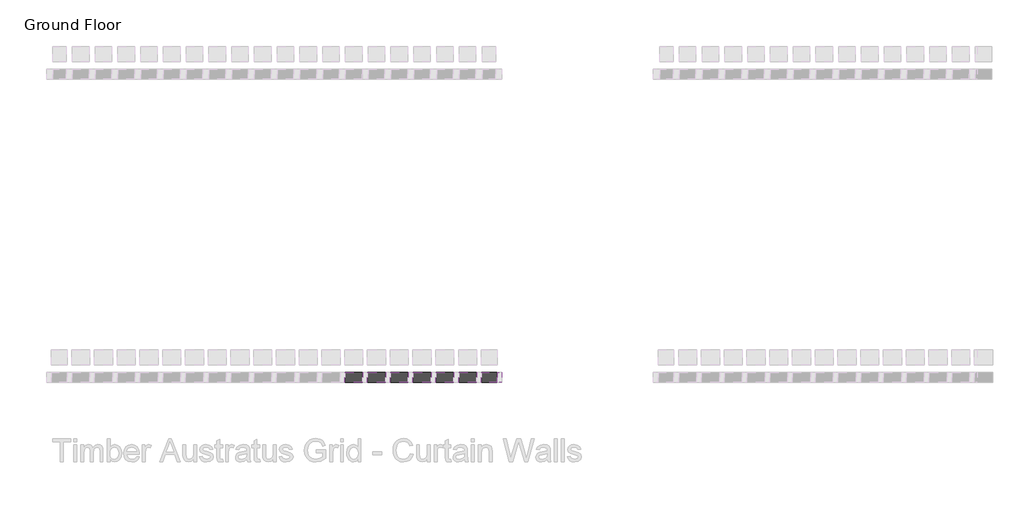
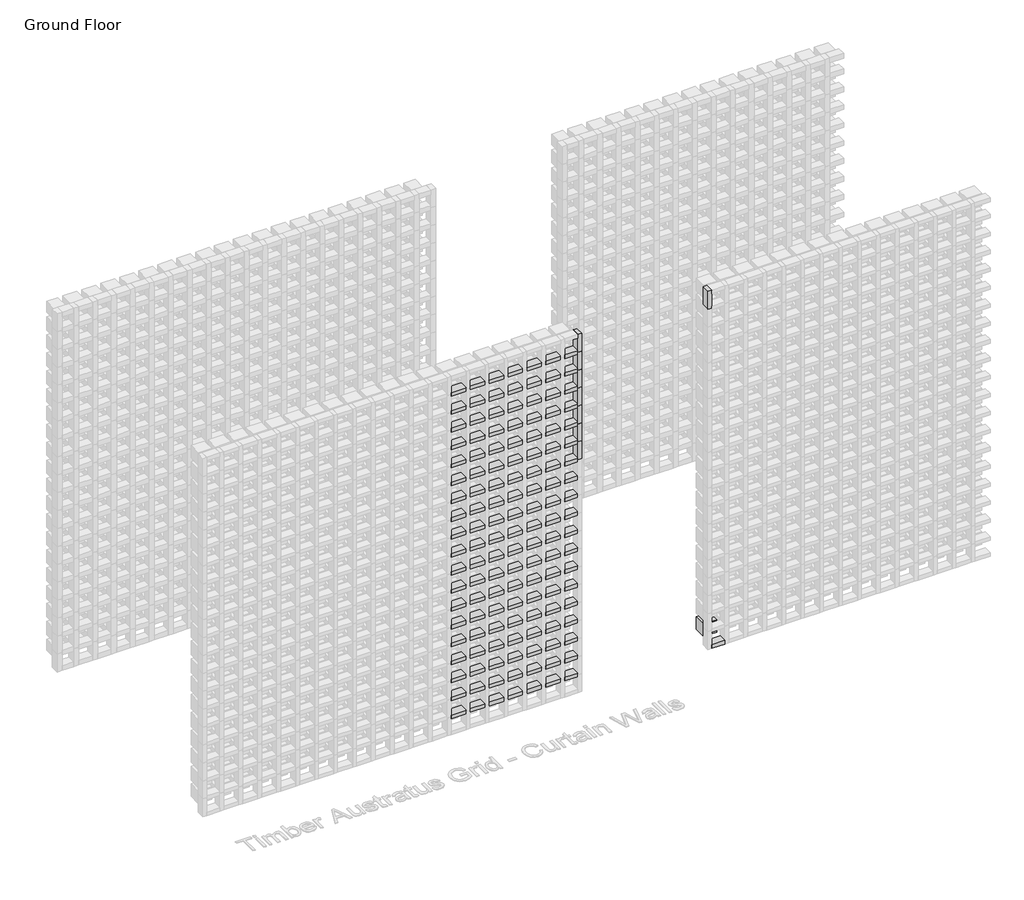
# One storey, part 54 of 350: 142 members, 1 plate.
"""IFC4 building model written with IfcOpenShell, lengths in millimetres."""

from ifc_helpers import new_model, si_unit, origin, place, context, project, spatial, transform, mapped, element, save
from components import rectangular_mullion_1c916715, rectangular_mullion_a9727e9f, rectangular_mullion_e9e2e2fa, rectangular_mullion_27b03f3e, rectangular_mullion_ed01f2b6, empty_system_panel_empty_2f71b3a5

model = new_model("IFC4")

# Units and contexts
model_context = context("Model", 3, world=origin())
ifc_project = project(units=[si_unit("LENGTHUNIT", "METRE", prefix="MILLI")], contexts=[model_context])

# Site, building, storey
site = spatial("IfcSite", under=ifc_project)
building = spatial("IfcBuilding", under=site)
storey = spatial("IfcBuildingStorey", under=building, Name="Ground Floor", Elevation=0.0)

# Members
placement = place(None, origin())
rectangular_mullion_shape = rectangular_mullion_1c916715(model_context)
element("IfcMember", 1, ObjectType="Rectangular Mullion : Batten_Timber_Modinex_Austratus_Grid_Fascia_30x65_AlaskanYellowCedar", at=placement, inside=storey, context=model_context, shape_type="MappedRepresentation", body=[
    mapped(rectangular_mullion_shape, transform((4001.4361642, 38968.2978302, 150.0), x_axis=(0.0, 0.0, 1.0), y_axis=(0.0, -1.0, 0.0), z_axis=(1.0, 0.0, 0.0))),
])
element("IfcMember", 2, ObjectType="Rectangular Mullion : Batten_Timber_Modinex_Austratus_Grid_Fascia_30x65_AlaskanYellowCedar", at=placement, inside=storey, context=model_context, shape_type="MappedRepresentation", body=[
    mapped(rectangular_mullion_shape, transform((4151.4361642, 38968.2978302, 150.0), x_axis=(0.0, 0.0, 1.0), y_axis=(0.0, -1.0, 0.0), z_axis=(1.0, 0.0, 0.0))),
])
element("IfcMember", 3, ObjectType="Rectangular Mullion : Batten_Timber_Modinex_Austratus_Grid_Fascia_30x65_AlaskanYellowCedar", at=placement, inside=storey, context=model_context, shape_type="MappedRepresentation", body=[
    mapped(rectangular_mullion_shape, transform((4301.4361642, 38968.2978302, 150.0), x_axis=(0.0, 0.0, 1.0), y_axis=(0.0, -1.0, 0.0), z_axis=(1.0, 0.0, 0.0))),
])
element("IfcMember", 4, ObjectType="Rectangular Mullion : Batten_Timber_Modinex_Austratus_Grid_Fascia_30x65_AlaskanYellowCedar", at=placement, inside=storey, context=model_context, shape_type="MappedRepresentation", body=[
    mapped(rectangular_mullion_shape, transform((4451.4361642, 38968.2978302, 150.0), x_axis=(0.0, 0.0, 1.0), y_axis=(0.0, -1.0, 0.0), z_axis=(1.0, 0.0, 0.0))),
])
element("IfcMember", 5, ObjectType="Rectangular Mullion : Batten_Timber_Modinex_Austratus_Grid_Fascia_30x65_AlaskanYellowCedar", at=placement, inside=storey, context=model_context, shape_type="MappedRepresentation", body=[
    mapped(rectangular_mullion_shape, transform((4601.4361642, 38968.2978302, 150.0), x_axis=(0.0, 0.0, 1.0), y_axis=(0.0, -1.0, 0.0), z_axis=(1.0, 0.0, 0.0))),
])
element("IfcMember", 6, ObjectType="Rectangular Mullion : Batten_Timber_Modinex_Austratus_Grid_Fascia_30x65_AlaskanYellowCedar", at=placement, inside=storey, context=model_context, shape_type="MappedRepresentation", body=[
    mapped(rectangular_mullion_shape, transform((4751.4361642, 38968.2978302, 150.0), x_axis=(0.0, 0.0, 1.0), y_axis=(0.0, -1.0, 0.0), z_axis=(1.0, 0.0, 0.0))),
])
element("IfcMember", 7, ObjectType="Rectangular Mullion : Batten_Timber_Modinex_Austratus_Grid_Fascia_30x65_AlaskanYellowCedar", at=placement, inside=storey, context=model_context, shape_type="MappedRepresentation", body=[
    mapped(rectangular_mullion_shape, transform((4001.4361642, 38968.2978302, 300.0), x_axis=(0.0, 0.0, 1.0), y_axis=(0.0, -1.0, 0.0), z_axis=(1.0, 0.0, 0.0))),
])
element("IfcMember", 8, ObjectType="Rectangular Mullion : Batten_Timber_Modinex_Austratus_Grid_Fascia_30x65_AlaskanYellowCedar", at=placement, inside=storey, context=model_context, shape_type="MappedRepresentation", body=[
    mapped(rectangular_mullion_shape, transform((4151.4361642, 38968.2978302, 300.0), x_axis=(0.0, 0.0, 1.0), y_axis=(0.0, -1.0, 0.0), z_axis=(1.0, 0.0, 0.0))),
])
element("IfcMember", 9, ObjectType="Rectangular Mullion : Batten_Timber_Modinex_Austratus_Grid_Fascia_30x65_AlaskanYellowCedar", at=placement, inside=storey, context=model_context, shape_type="MappedRepresentation", body=[
    mapped(rectangular_mullion_shape, transform((4301.4361642, 38968.2978302, 300.0), x_axis=(0.0, 0.0, 1.0), y_axis=(0.0, -1.0, 0.0), z_axis=(1.0, 0.0, 0.0))),
])
element("IfcMember", 10, ObjectType="Rectangular Mullion : Batten_Timber_Modinex_Austratus_Grid_Fascia_30x65_AlaskanYellowCedar", at=placement, inside=storey, context=model_context, shape_type="MappedRepresentation", body=[
    mapped(rectangular_mullion_shape, transform((4451.4361642, 38968.2978302, 300.0), x_axis=(0.0, 0.0, 1.0), y_axis=(0.0, -1.0, 0.0), z_axis=(1.0, 0.0, 0.0))),
])
element("IfcMember", 11, ObjectType="Rectangular Mullion : Batten_Timber_Modinex_Austratus_Grid_Fascia_30x65_AlaskanYellowCedar", at=placement, inside=storey, context=model_context, shape_type="MappedRepresentation", body=[
    mapped(rectangular_mullion_shape, transform((4601.4361642, 38968.2978302, 300.0), x_axis=(0.0, 0.0, 1.0), y_axis=(0.0, -1.0, 0.0), z_axis=(1.0, 0.0, 0.0))),
])
element("IfcMember", 12, ObjectType="Rectangular Mullion : Batten_Timber_Modinex_Austratus_Grid_Fascia_30x65_AlaskanYellowCedar", at=placement, inside=storey, context=model_context, shape_type="MappedRepresentation", body=[
    mapped(rectangular_mullion_shape, transform((4751.4361642, 38968.2978302, 300.0), x_axis=(0.0, 0.0, 1.0), y_axis=(0.0, -1.0, 0.0), z_axis=(1.0, 0.0, 0.0))),
])
element("IfcMember", 13, ObjectType="Rectangular Mullion : Batten_Timber_Modinex_Austratus_Grid_Fascia_30x65_AlaskanYellowCedar", at=placement, inside=storey, context=model_context, shape_type="MappedRepresentation", body=[
    mapped(rectangular_mullion_shape, transform((4001.4361642, 38968.2978302, 450.0), x_axis=(0.0, 0.0, 1.0), y_axis=(0.0, -1.0, 0.0), z_axis=(1.0, 0.0, 0.0))),
])
element("IfcMember", 14, ObjectType="Rectangular Mullion : Batten_Timber_Modinex_Austratus_Grid_Fascia_30x65_AlaskanYellowCedar", at=placement, inside=storey, context=model_context, shape_type="MappedRepresentation", body=[
    mapped(rectangular_mullion_shape, transform((4151.4361642, 38968.2978302, 450.0), x_axis=(0.0, 0.0, 1.0), y_axis=(0.0, -1.0, 0.0), z_axis=(1.0, 0.0, 0.0))),
])
element("IfcMember", 15, ObjectType="Rectangular Mullion : Batten_Timber_Modinex_Austratus_Grid_Fascia_30x65_AlaskanYellowCedar", at=placement, inside=storey, context=model_context, shape_type="MappedRepresentation", body=[
    mapped(rectangular_mullion_shape, transform((4301.4361642, 38968.2978302, 450.0), x_axis=(0.0, 0.0, 1.0), y_axis=(0.0, -1.0, 0.0), z_axis=(1.0, 0.0, 0.0))),
])
element("IfcMember", 16, ObjectType="Rectangular Mullion : Batten_Timber_Modinex_Austratus_Grid_Fascia_30x65_AlaskanYellowCedar", at=placement, inside=storey, context=model_context, shape_type="MappedRepresentation", body=[
    mapped(rectangular_mullion_shape, transform((4451.4361642, 38968.2978302, 450.0), x_axis=(0.0, 0.0, 1.0), y_axis=(0.0, -1.0, 0.0), z_axis=(1.0, 0.0, 0.0))),
])
element("IfcMember", 17, ObjectType="Rectangular Mullion : Batten_Timber_Modinex_Austratus_Grid_Fascia_30x65_AlaskanYellowCedar", at=placement, inside=storey, context=model_context, shape_type="MappedRepresentation", body=[
    mapped(rectangular_mullion_shape, transform((4601.4361642, 38968.2978302, 450.0), x_axis=(0.0, 0.0, 1.0), y_axis=(0.0, -1.0, 0.0), z_axis=(1.0, 0.0, 0.0))),
])
element("IfcMember", 18, ObjectType="Rectangular Mullion : Batten_Timber_Modinex_Austratus_Grid_Fascia_30x65_AlaskanYellowCedar", at=placement, inside=storey, context=model_context, shape_type="MappedRepresentation", body=[
    mapped(rectangular_mullion_shape, transform((4751.4361642, 38968.2978302, 450.0), x_axis=(0.0, 0.0, 1.0), y_axis=(0.0, -1.0, 0.0), z_axis=(1.0, 0.0, 0.0))),
])
element("IfcMember", 19, ObjectType="Rectangular Mullion : Batten_Timber_Modinex_Austratus_Grid_Fascia_30x65_AlaskanYellowCedar", at=placement, inside=storey, context=model_context, shape_type="MappedRepresentation", body=[
    mapped(rectangular_mullion_shape, transform((4001.4361642, 38968.2978302, 600.0), x_axis=(0.0, 0.0, 1.0), y_axis=(0.0, -1.0, 0.0), z_axis=(1.0, 0.0, 0.0))),
])
element("IfcMember", 20, ObjectType="Rectangular Mullion : Batten_Timber_Modinex_Austratus_Grid_Fascia_30x65_AlaskanYellowCedar", at=placement, inside=storey, context=model_context, shape_type="MappedRepresentation", body=[
    mapped(rectangular_mullion_shape, transform((4151.4361642, 38968.2978302, 600.0), x_axis=(0.0, 0.0, 1.0), y_axis=(0.0, -1.0, 0.0), z_axis=(1.0, 0.0, 0.0))),
])
element("IfcMember", 21, ObjectType="Rectangular Mullion : Batten_Timber_Modinex_Austratus_Grid_Fascia_30x65_AlaskanYellowCedar", at=placement, inside=storey, context=model_context, shape_type="MappedRepresentation", body=[
    mapped(rectangular_mullion_shape, transform((4301.4361642, 38968.2978302, 600.0), x_axis=(0.0, 0.0, 1.0), y_axis=(0.0, -1.0, 0.0), z_axis=(1.0, 0.0, 0.0))),
])
element("IfcMember", 22, ObjectType="Rectangular Mullion : Batten_Timber_Modinex_Austratus_Grid_Fascia_30x65_AlaskanYellowCedar", at=placement, inside=storey, context=model_context, shape_type="MappedRepresentation", body=[
    mapped(rectangular_mullion_shape, transform((4451.4361642, 38968.2978302, 600.0), x_axis=(0.0, 0.0, 1.0), y_axis=(0.0, -1.0, 0.0), z_axis=(1.0, 0.0, 0.0))),
])
element("IfcMember", 23, ObjectType="Rectangular Mullion : Batten_Timber_Modinex_Austratus_Grid_Fascia_30x65_AlaskanYellowCedar", at=placement, inside=storey, context=model_context, shape_type="MappedRepresentation", body=[
    mapped(rectangular_mullion_shape, transform((4601.4361642, 38968.2978302, 600.0), x_axis=(0.0, 0.0, 1.0), y_axis=(0.0, -1.0, 0.0), z_axis=(1.0, 0.0, 0.0))),
])
element("IfcMember", 24, ObjectType="Rectangular Mullion : Batten_Timber_Modinex_Austratus_Grid_Fascia_30x65_AlaskanYellowCedar", at=placement, inside=storey, context=model_context, shape_type="MappedRepresentation", body=[
    mapped(rectangular_mullion_shape, transform((4751.4361642, 38968.2978302, 600.0), x_axis=(0.0, 0.0, 1.0), y_axis=(0.0, -1.0, 0.0), z_axis=(1.0, 0.0, 0.0))),
])
element("IfcMember", 25, ObjectType="Rectangular Mullion : Batten_Timber_Modinex_Austratus_Grid_Fascia_30x65_AlaskanYellowCedar", at=placement, inside=storey, context=model_context, shape_type="MappedRepresentation", body=[
    mapped(rectangular_mullion_shape, transform((4001.4361642, 38968.2978302, 750.0), x_axis=(0.0, 0.0, 1.0), y_axis=(0.0, -1.0, 0.0), z_axis=(1.0, 0.0, 0.0))),
])
element("IfcMember", 26, ObjectType="Rectangular Mullion : Batten_Timber_Modinex_Austratus_Grid_Fascia_30x65_AlaskanYellowCedar", at=placement, inside=storey, context=model_context, shape_type="MappedRepresentation", body=[
    mapped(rectangular_mullion_shape, transform((4151.4361642, 38968.2978302, 750.0), x_axis=(0.0, 0.0, 1.0), y_axis=(0.0, -1.0, 0.0), z_axis=(1.0, 0.0, 0.0))),
])
element("IfcMember", 27, ObjectType="Rectangular Mullion : Batten_Timber_Modinex_Austratus_Grid_Fascia_30x65_AlaskanYellowCedar", at=placement, inside=storey, context=model_context, shape_type="MappedRepresentation", body=[
    mapped(rectangular_mullion_shape, transform((4301.4361642, 38968.2978302, 750.0), x_axis=(0.0, 0.0, 1.0), y_axis=(0.0, -1.0, 0.0), z_axis=(1.0, 0.0, 0.0))),
])
element("IfcMember", 28, ObjectType="Rectangular Mullion : Batten_Timber_Modinex_Austratus_Grid_Fascia_30x65_AlaskanYellowCedar", at=placement, inside=storey, context=model_context, shape_type="MappedRepresentation", body=[
    mapped(rectangular_mullion_shape, transform((4451.4361642, 38968.2978302, 750.0), x_axis=(0.0, 0.0, 1.0), y_axis=(0.0, -1.0, 0.0), z_axis=(1.0, 0.0, 0.0))),
])
element("IfcMember", 29, ObjectType="Rectangular Mullion : Batten_Timber_Modinex_Austratus_Grid_Fascia_30x65_AlaskanYellowCedar", at=placement, inside=storey, context=model_context, shape_type="MappedRepresentation", body=[
    mapped(rectangular_mullion_shape, transform((4601.4361642, 38968.2978302, 750.0), x_axis=(0.0, 0.0, 1.0), y_axis=(0.0, -1.0, 0.0), z_axis=(1.0, 0.0, 0.0))),
])
element("IfcMember", 30, ObjectType="Rectangular Mullion : Batten_Timber_Modinex_Austratus_Grid_Fascia_30x65_AlaskanYellowCedar", at=placement, inside=storey, context=model_context, shape_type="MappedRepresentation", body=[
    mapped(rectangular_mullion_shape, transform((4751.4361642, 38968.2978302, 750.0), x_axis=(0.0, 0.0, 1.0), y_axis=(0.0, -1.0, 0.0), z_axis=(1.0, 0.0, 0.0))),
])
element("IfcMember", 31, ObjectType="Rectangular Mullion : Batten_Timber_Modinex_Austratus_Grid_Fascia_30x65_AlaskanYellowCedar", at=placement, inside=storey, context=model_context, shape_type="MappedRepresentation", body=[
    mapped(rectangular_mullion_shape, transform((4001.4361642, 38968.2978302, 900.0), x_axis=(0.0, 0.0, 1.0), y_axis=(0.0, -1.0, 0.0), z_axis=(1.0, 0.0, 0.0))),
])
element("IfcMember", 32, ObjectType="Rectangular Mullion : Batten_Timber_Modinex_Austratus_Grid_Fascia_30x65_AlaskanYellowCedar", at=placement, inside=storey, context=model_context, shape_type="MappedRepresentation", body=[
    mapped(rectangular_mullion_shape, transform((4151.4361642, 38968.2978302, 900.0), x_axis=(0.0, 0.0, 1.0), y_axis=(0.0, -1.0, 0.0), z_axis=(1.0, 0.0, 0.0))),
])
element("IfcMember", 33, ObjectType="Rectangular Mullion : Batten_Timber_Modinex_Austratus_Grid_Fascia_30x65_AlaskanYellowCedar", at=placement, inside=storey, context=model_context, shape_type="MappedRepresentation", body=[
    mapped(rectangular_mullion_shape, transform((4301.4361642, 38968.2978302, 900.0), x_axis=(0.0, 0.0, 1.0), y_axis=(0.0, -1.0, 0.0), z_axis=(1.0, 0.0, 0.0))),
])
element("IfcMember", 34, ObjectType="Rectangular Mullion : Batten_Timber_Modinex_Austratus_Grid_Fascia_30x65_AlaskanYellowCedar", at=placement, inside=storey, context=model_context, shape_type="MappedRepresentation", body=[
    mapped(rectangular_mullion_shape, transform((4451.4361642, 38968.2978302, 900.0), x_axis=(0.0, 0.0, 1.0), y_axis=(0.0, -1.0, 0.0), z_axis=(1.0, 0.0, 0.0))),
])
element("IfcMember", 35, ObjectType="Rectangular Mullion : Batten_Timber_Modinex_Austratus_Grid_Fascia_30x65_AlaskanYellowCedar", at=placement, inside=storey, context=model_context, shape_type="MappedRepresentation", body=[
    mapped(rectangular_mullion_shape, transform((4601.4361642, 38968.2978302, 900.0), x_axis=(0.0, 0.0, 1.0), y_axis=(0.0, -1.0, 0.0), z_axis=(1.0, 0.0, 0.0))),
])
element("IfcMember", 36, ObjectType="Rectangular Mullion : Batten_Timber_Modinex_Austratus_Grid_Fascia_30x65_AlaskanYellowCedar", at=placement, inside=storey, context=model_context, shape_type="MappedRepresentation", body=[
    mapped(rectangular_mullion_shape, transform((4751.4361642, 38968.2978302, 900.0), x_axis=(0.0, 0.0, 1.0), y_axis=(0.0, -1.0, 0.0), z_axis=(1.0, 0.0, 0.0))),
])
element("IfcMember", 37, ObjectType="Rectangular Mullion : Batten_Timber_Modinex_Austratus_Grid_Fascia_30x65_AlaskanYellowCedar", at=placement, inside=storey, context=model_context, shape_type="MappedRepresentation", body=[
    mapped(rectangular_mullion_shape, transform((4001.4361642, 38968.2978302, 1050.0), x_axis=(0.0, 0.0, 1.0), y_axis=(0.0, -1.0, 0.0), z_axis=(1.0, 0.0, 0.0))),
])
element("IfcMember", 38, ObjectType="Rectangular Mullion : Batten_Timber_Modinex_Austratus_Grid_Fascia_30x65_AlaskanYellowCedar", at=placement, inside=storey, context=model_context, shape_type="MappedRepresentation", body=[
    mapped(rectangular_mullion_shape, transform((4151.4361642, 38968.2978302, 1050.0), x_axis=(0.0, 0.0, 1.0), y_axis=(0.0, -1.0, 0.0), z_axis=(1.0, 0.0, 0.0))),
])
element("IfcMember", 39, ObjectType="Rectangular Mullion : Batten_Timber_Modinex_Austratus_Grid_Fascia_30x65_AlaskanYellowCedar", at=placement, inside=storey, context=model_context, shape_type="MappedRepresentation", body=[
    mapped(rectangular_mullion_shape, transform((4301.4361642, 38968.2978302, 1050.0), x_axis=(0.0, 0.0, 1.0), y_axis=(0.0, -1.0, 0.0), z_axis=(1.0, 0.0, 0.0))),
])
element("IfcMember", 40, ObjectType="Rectangular Mullion : Batten_Timber_Modinex_Austratus_Grid_Fascia_30x65_AlaskanYellowCedar", at=placement, inside=storey, context=model_context, shape_type="MappedRepresentation", body=[
    mapped(rectangular_mullion_shape, transform((4451.4361642, 38968.2978302, 1050.0), x_axis=(0.0, 0.0, 1.0), y_axis=(0.0, -1.0, 0.0), z_axis=(1.0, 0.0, 0.0))),
])
element("IfcMember", 41, ObjectType="Rectangular Mullion : Batten_Timber_Modinex_Austratus_Grid_Fascia_30x65_AlaskanYellowCedar", at=placement, inside=storey, context=model_context, shape_type="MappedRepresentation", body=[
    mapped(rectangular_mullion_shape, transform((4601.4361642, 38968.2978302, 1050.0), x_axis=(0.0, 0.0, 1.0), y_axis=(0.0, -1.0, 0.0), z_axis=(1.0, 0.0, 0.0))),
])
element("IfcMember", 42, ObjectType="Rectangular Mullion : Batten_Timber_Modinex_Austratus_Grid_Fascia_30x65_AlaskanYellowCedar", at=placement, inside=storey, context=model_context, shape_type="MappedRepresentation", body=[
    mapped(rectangular_mullion_shape, transform((4751.4361642, 38968.2978302, 1050.0), x_axis=(0.0, 0.0, 1.0), y_axis=(0.0, -1.0, 0.0), z_axis=(1.0, 0.0, 0.0))),
])
element("IfcMember", 43, ObjectType="Rectangular Mullion : Batten_Timber_Modinex_Austratus_Grid_Fascia_30x65_AlaskanYellowCedar", at=placement, inside=storey, context=model_context, shape_type="MappedRepresentation", body=[
    mapped(rectangular_mullion_shape, transform((4001.4361642, 38968.2978302, 1200.0), x_axis=(0.0, 0.0, 1.0), y_axis=(0.0, -1.0, 0.0), z_axis=(1.0, 0.0, 0.0))),
])
element("IfcMember", 44, ObjectType="Rectangular Mullion : Batten_Timber_Modinex_Austratus_Grid_Fascia_30x65_AlaskanYellowCedar", at=placement, inside=storey, context=model_context, shape_type="MappedRepresentation", body=[
    mapped(rectangular_mullion_shape, transform((4151.4361642, 38968.2978302, 1200.0), x_axis=(0.0, 0.0, 1.0), y_axis=(0.0, -1.0, 0.0), z_axis=(1.0, 0.0, 0.0))),
])
element("IfcMember", 45, ObjectType="Rectangular Mullion : Batten_Timber_Modinex_Austratus_Grid_Fascia_30x65_AlaskanYellowCedar", at=placement, inside=storey, context=model_context, shape_type="MappedRepresentation", body=[
    mapped(rectangular_mullion_shape, transform((4301.4361642, 38968.2978302, 1200.0), x_axis=(0.0, 0.0, 1.0), y_axis=(0.0, -1.0, 0.0), z_axis=(1.0, 0.0, 0.0))),
])
element("IfcMember", 46, ObjectType="Rectangular Mullion : Batten_Timber_Modinex_Austratus_Grid_Fascia_30x65_AlaskanYellowCedar", at=placement, inside=storey, context=model_context, shape_type="MappedRepresentation", body=[
    mapped(rectangular_mullion_shape, transform((4451.4361642, 38968.2978302, 1200.0), x_axis=(0.0, 0.0, 1.0), y_axis=(0.0, -1.0, 0.0), z_axis=(1.0, 0.0, 0.0))),
])
element("IfcMember", 47, ObjectType="Rectangular Mullion : Batten_Timber_Modinex_Austratus_Grid_Fascia_30x65_AlaskanYellowCedar", at=placement, inside=storey, context=model_context, shape_type="MappedRepresentation", body=[
    mapped(rectangular_mullion_shape, transform((4601.4361642, 38968.2978302, 1200.0), x_axis=(0.0, 0.0, 1.0), y_axis=(0.0, -1.0, 0.0), z_axis=(1.0, 0.0, 0.0))),
])
element("IfcMember", 48, ObjectType="Rectangular Mullion : Batten_Timber_Modinex_Austratus_Grid_Fascia_30x65_AlaskanYellowCedar", at=placement, inside=storey, context=model_context, shape_type="MappedRepresentation", body=[
    mapped(rectangular_mullion_shape, transform((4751.4361642, 38968.2978302, 1200.0), x_axis=(0.0, 0.0, 1.0), y_axis=(0.0, -1.0, 0.0), z_axis=(1.0, 0.0, 0.0))),
])
element("IfcMember", 49, ObjectType="Rectangular Mullion : Batten_Timber_Modinex_Austratus_Grid_Fascia_30x65_AlaskanYellowCedar", at=placement, inside=storey, context=model_context, shape_type="MappedRepresentation", body=[
    mapped(rectangular_mullion_shape, transform((4001.4361642, 38968.2978302, 1350.0), x_axis=(0.0, 0.0, 1.0), y_axis=(0.0, -1.0, 0.0), z_axis=(1.0, 0.0, 0.0))),
])
element("IfcMember", 50, ObjectType="Rectangular Mullion : Batten_Timber_Modinex_Austratus_Grid_Fascia_30x65_AlaskanYellowCedar", at=placement, inside=storey, context=model_context, shape_type="MappedRepresentation", body=[
    mapped(rectangular_mullion_shape, transform((4151.4361642, 38968.2978302, 1350.0), x_axis=(0.0, 0.0, 1.0), y_axis=(0.0, -1.0, 0.0), z_axis=(1.0, 0.0, 0.0))),
])
element("IfcMember", 51, ObjectType="Rectangular Mullion : Batten_Timber_Modinex_Austratus_Grid_Fascia_30x65_AlaskanYellowCedar", at=placement, inside=storey, context=model_context, shape_type="MappedRepresentation", body=[
    mapped(rectangular_mullion_shape, transform((4301.4361642, 38968.2978302, 1350.0), x_axis=(0.0, 0.0, 1.0), y_axis=(0.0, -1.0, 0.0), z_axis=(1.0, 0.0, 0.0))),
])
element("IfcMember", 52, ObjectType="Rectangular Mullion : Batten_Timber_Modinex_Austratus_Grid_Fascia_30x65_AlaskanYellowCedar", at=placement, inside=storey, context=model_context, shape_type="MappedRepresentation", body=[
    mapped(rectangular_mullion_shape, transform((4451.4361642, 38968.2978302, 1350.0), x_axis=(0.0, 0.0, 1.0), y_axis=(0.0, -1.0, 0.0), z_axis=(1.0, 0.0, 0.0))),
])
element("IfcMember", 53, ObjectType="Rectangular Mullion : Batten_Timber_Modinex_Austratus_Grid_Fascia_30x65_AlaskanYellowCedar", at=placement, inside=storey, context=model_context, shape_type="MappedRepresentation", body=[
    mapped(rectangular_mullion_shape, transform((4601.4361642, 38968.2978302, 1350.0), x_axis=(0.0, 0.0, 1.0), y_axis=(0.0, -1.0, 0.0), z_axis=(1.0, 0.0, 0.0))),
])
element("IfcMember", 54, ObjectType="Rectangular Mullion : Batten_Timber_Modinex_Austratus_Grid_Fascia_30x65_AlaskanYellowCedar", at=placement, inside=storey, context=model_context, shape_type="MappedRepresentation", body=[
    mapped(rectangular_mullion_shape, transform((4751.4361642, 38968.2978302, 1350.0), x_axis=(0.0, 0.0, 1.0), y_axis=(0.0, -1.0, 0.0), z_axis=(1.0, 0.0, 0.0))),
])
element("IfcMember", 55, ObjectType="Rectangular Mullion : Batten_Timber_Modinex_Austratus_Grid_Fascia_30x65_AlaskanYellowCedar", at=placement, inside=storey, context=model_context, shape_type="MappedRepresentation", body=[
    mapped(rectangular_mullion_shape, transform((4001.4361642, 38968.2978302, 1500.0), x_axis=(0.0, 0.0, 1.0), y_axis=(0.0, -1.0, 0.0), z_axis=(1.0, 0.0, 0.0))),
])
element("IfcMember", 56, ObjectType="Rectangular Mullion : Batten_Timber_Modinex_Austratus_Grid_Fascia_30x65_AlaskanYellowCedar", at=placement, inside=storey, context=model_context, shape_type="MappedRepresentation", body=[
    mapped(rectangular_mullion_shape, transform((4151.4361642, 38968.2978302, 1500.0), x_axis=(0.0, 0.0, 1.0), y_axis=(0.0, -1.0, 0.0), z_axis=(1.0, 0.0, 0.0))),
])
element("IfcMember", 57, ObjectType="Rectangular Mullion : Batten_Timber_Modinex_Austratus_Grid_Fascia_30x65_AlaskanYellowCedar", at=placement, inside=storey, context=model_context, shape_type="MappedRepresentation", body=[
    mapped(rectangular_mullion_shape, transform((4301.4361642, 38968.2978302, 1500.0), x_axis=(0.0, 0.0, 1.0), y_axis=(0.0, -1.0, 0.0), z_axis=(1.0, 0.0, 0.0))),
])
element("IfcMember", 58, ObjectType="Rectangular Mullion : Batten_Timber_Modinex_Austratus_Grid_Fascia_30x65_AlaskanYellowCedar", at=placement, inside=storey, context=model_context, shape_type="MappedRepresentation", body=[
    mapped(rectangular_mullion_shape, transform((4451.4361642, 38968.2978302, 1500.0), x_axis=(0.0, 0.0, 1.0), y_axis=(0.0, -1.0, 0.0), z_axis=(1.0, 0.0, 0.0))),
])
element("IfcMember", 59, ObjectType="Rectangular Mullion : Batten_Timber_Modinex_Austratus_Grid_Fascia_30x65_AlaskanYellowCedar", at=placement, inside=storey, context=model_context, shape_type="MappedRepresentation", body=[
    mapped(rectangular_mullion_shape, transform((4601.4361642, 38968.2978302, 1500.0), x_axis=(0.0, 0.0, 1.0), y_axis=(0.0, -1.0, 0.0), z_axis=(1.0, 0.0, 0.0))),
])
element("IfcMember", 60, ObjectType="Rectangular Mullion : Batten_Timber_Modinex_Austratus_Grid_Fascia_30x65_AlaskanYellowCedar", at=placement, inside=storey, context=model_context, shape_type="MappedRepresentation", body=[
    mapped(rectangular_mullion_shape, transform((4751.4361642, 38968.2978302, 1500.0), x_axis=(0.0, 0.0, 1.0), y_axis=(0.0, -1.0, 0.0), z_axis=(1.0, 0.0, 0.0))),
])
element("IfcMember", 61, ObjectType="Rectangular Mullion : Batten_Timber_Modinex_Austratus_Grid_Fascia_30x65_AlaskanYellowCedar", at=placement, inside=storey, context=model_context, shape_type="MappedRepresentation", body=[
    mapped(rectangular_mullion_shape, transform((4001.4361642, 38968.2978302, 1650.0), x_axis=(0.0, 0.0, 1.0), y_axis=(0.0, -1.0, 0.0), z_axis=(1.0, 0.0, 0.0))),
])
element("IfcMember", 62, ObjectType="Rectangular Mullion : Batten_Timber_Modinex_Austratus_Grid_Fascia_30x65_AlaskanYellowCedar", at=placement, inside=storey, context=model_context, shape_type="MappedRepresentation", body=[
    mapped(rectangular_mullion_shape, transform((4151.4361642, 38968.2978302, 1650.0), x_axis=(0.0, 0.0, 1.0), y_axis=(0.0, -1.0, 0.0), z_axis=(1.0, 0.0, 0.0))),
])
element("IfcMember", 63, ObjectType="Rectangular Mullion : Batten_Timber_Modinex_Austratus_Grid_Fascia_30x65_AlaskanYellowCedar", at=placement, inside=storey, context=model_context, shape_type="MappedRepresentation", body=[
    mapped(rectangular_mullion_shape, transform((4301.4361642, 38968.2978302, 1650.0), x_axis=(0.0, 0.0, 1.0), y_axis=(0.0, -1.0, 0.0), z_axis=(1.0, 0.0, 0.0))),
])
element("IfcMember", 64, ObjectType="Rectangular Mullion : Batten_Timber_Modinex_Austratus_Grid_Fascia_30x65_AlaskanYellowCedar", at=placement, inside=storey, context=model_context, shape_type="MappedRepresentation", body=[
    mapped(rectangular_mullion_shape, transform((4451.4361642, 38968.2978302, 1650.0), x_axis=(0.0, 0.0, 1.0), y_axis=(0.0, -1.0, 0.0), z_axis=(1.0, 0.0, 0.0))),
])
element("IfcMember", 65, ObjectType="Rectangular Mullion : Batten_Timber_Modinex_Austratus_Grid_Fascia_30x65_AlaskanYellowCedar", at=placement, inside=storey, context=model_context, shape_type="MappedRepresentation", body=[
    mapped(rectangular_mullion_shape, transform((4601.4361642, 38968.2978302, 1650.0), x_axis=(0.0, 0.0, 1.0), y_axis=(0.0, -1.0, 0.0), z_axis=(1.0, 0.0, 0.0))),
])
element("IfcMember", 66, ObjectType="Rectangular Mullion : Batten_Timber_Modinex_Austratus_Grid_Fascia_30x65_AlaskanYellowCedar", at=placement, inside=storey, context=model_context, shape_type="MappedRepresentation", body=[
    mapped(rectangular_mullion_shape, transform((4751.4361642, 38968.2978302, 1650.0), x_axis=(0.0, 0.0, 1.0), y_axis=(0.0, -1.0, 0.0), z_axis=(1.0, 0.0, 0.0))),
])
element("IfcMember", 67, ObjectType="Rectangular Mullion : Batten_Timber_Modinex_Austratus_Grid_Fascia_30x65_AlaskanYellowCedar", at=placement, inside=storey, context=model_context, shape_type="MappedRepresentation", body=[
    mapped(rectangular_mullion_shape, transform((4001.4361642, 38968.2978302, 1800.0), x_axis=(0.0, 0.0, 1.0), y_axis=(0.0, -1.0, 0.0), z_axis=(1.0, 0.0, 0.0))),
])
element("IfcMember", 68, ObjectType="Rectangular Mullion : Batten_Timber_Modinex_Austratus_Grid_Fascia_30x65_AlaskanYellowCedar", at=placement, inside=storey, context=model_context, shape_type="MappedRepresentation", body=[
    mapped(rectangular_mullion_shape, transform((4151.4361642, 38968.2978302, 1800.0), x_axis=(0.0, 0.0, 1.0), y_axis=(0.0, -1.0, 0.0), z_axis=(1.0, 0.0, 0.0))),
])
element("IfcMember", 69, ObjectType="Rectangular Mullion : Batten_Timber_Modinex_Austratus_Grid_Fascia_30x65_AlaskanYellowCedar", at=placement, inside=storey, context=model_context, shape_type="MappedRepresentation", body=[
    mapped(rectangular_mullion_shape, transform((4301.4361642, 38968.2978302, 1800.0), x_axis=(0.0, 0.0, 1.0), y_axis=(0.0, -1.0, 0.0), z_axis=(1.0, 0.0, 0.0))),
])
element("IfcMember", 70, ObjectType="Rectangular Mullion : Batten_Timber_Modinex_Austratus_Grid_Fascia_30x65_AlaskanYellowCedar", at=placement, inside=storey, context=model_context, shape_type="MappedRepresentation", body=[
    mapped(rectangular_mullion_shape, transform((4451.4361642, 38968.2978302, 1800.0), x_axis=(0.0, 0.0, 1.0), y_axis=(0.0, -1.0, 0.0), z_axis=(1.0, 0.0, 0.0))),
])
element("IfcMember", 71, ObjectType="Rectangular Mullion : Batten_Timber_Modinex_Austratus_Grid_Fascia_30x65_AlaskanYellowCedar", at=placement, inside=storey, context=model_context, shape_type="MappedRepresentation", body=[
    mapped(rectangular_mullion_shape, transform((4601.4361642, 38968.2978302, 1800.0), x_axis=(0.0, 0.0, 1.0), y_axis=(0.0, -1.0, 0.0), z_axis=(1.0, 0.0, 0.0))),
])
element("IfcMember", 72, ObjectType="Rectangular Mullion : Batten_Timber_Modinex_Austratus_Grid_Fascia_30x65_AlaskanYellowCedar", at=placement, inside=storey, context=model_context, shape_type="MappedRepresentation", body=[
    mapped(rectangular_mullion_shape, transform((4751.4361642, 38968.2978302, 1800.0), x_axis=(0.0, 0.0, 1.0), y_axis=(0.0, -1.0, 0.0), z_axis=(1.0, 0.0, 0.0))),
])
element("IfcMember", 73, ObjectType="Rectangular Mullion : Batten_Timber_Modinex_Austratus_Grid_Fascia_30x65_AlaskanYellowCedar", at=placement, inside=storey, context=model_context, shape_type="MappedRepresentation", body=[
    mapped(rectangular_mullion_shape, transform((4001.4361642, 38968.2978302, 1950.0), x_axis=(0.0, 0.0, 1.0), y_axis=(0.0, -1.0, 0.0), z_axis=(1.0, 0.0, 0.0))),
])
element("IfcMember", 74, ObjectType="Rectangular Mullion : Batten_Timber_Modinex_Austratus_Grid_Fascia_30x65_AlaskanYellowCedar", at=placement, inside=storey, context=model_context, shape_type="MappedRepresentation", body=[
    mapped(rectangular_mullion_shape, transform((4151.4361642, 38968.2978302, 1950.0), x_axis=(0.0, 0.0, 1.0), y_axis=(0.0, -1.0, 0.0), z_axis=(1.0, 0.0, 0.0))),
])
element("IfcMember", 75, ObjectType="Rectangular Mullion : Batten_Timber_Modinex_Austratus_Grid_Fascia_30x65_AlaskanYellowCedar", at=placement, inside=storey, context=model_context, shape_type="MappedRepresentation", body=[
    mapped(rectangular_mullion_shape, transform((4301.4361642, 38968.2978302, 1950.0), x_axis=(0.0, 0.0, 1.0), y_axis=(0.0, -1.0, 0.0), z_axis=(1.0, 0.0, 0.0))),
])
element("IfcMember", 76, ObjectType="Rectangular Mullion : Batten_Timber_Modinex_Austratus_Grid_Fascia_30x65_AlaskanYellowCedar", at=placement, inside=storey, context=model_context, shape_type="MappedRepresentation", body=[
    mapped(rectangular_mullion_shape, transform((4451.4361642, 38968.2978302, 1950.0), x_axis=(0.0, 0.0, 1.0), y_axis=(0.0, -1.0, 0.0), z_axis=(1.0, 0.0, 0.0))),
])
element("IfcMember", 77, ObjectType="Rectangular Mullion : Batten_Timber_Modinex_Austratus_Grid_Fascia_30x65_AlaskanYellowCedar", at=placement, inside=storey, context=model_context, shape_type="MappedRepresentation", body=[
    mapped(rectangular_mullion_shape, transform((4601.4361642, 38968.2978302, 1950.0), x_axis=(0.0, 0.0, 1.0), y_axis=(0.0, -1.0, 0.0), z_axis=(1.0, 0.0, 0.0))),
])
element("IfcMember", 78, ObjectType="Rectangular Mullion : Batten_Timber_Modinex_Austratus_Grid_Fascia_30x65_AlaskanYellowCedar", at=placement, inside=storey, context=model_context, shape_type="MappedRepresentation", body=[
    mapped(rectangular_mullion_shape, transform((4751.4361642, 38968.2978302, 1950.0), x_axis=(0.0, 0.0, 1.0), y_axis=(0.0, -1.0, 0.0), z_axis=(1.0, 0.0, 0.0))),
])
element("IfcMember", 79, ObjectType="Rectangular Mullion : Batten_Timber_Modinex_Austratus_Grid_Fascia_30x65_AlaskanYellowCedar", at=placement, inside=storey, context=model_context, shape_type="MappedRepresentation", body=[
    mapped(rectangular_mullion_shape, transform((4001.4361642, 38968.2978302, 2100.0), x_axis=(0.0, 0.0, 1.0), y_axis=(0.0, -1.0, 0.0), z_axis=(1.0, 0.0, 0.0))),
])
element("IfcMember", 80, ObjectType="Rectangular Mullion : Batten_Timber_Modinex_Austratus_Grid_Fascia_30x65_AlaskanYellowCedar", at=placement, inside=storey, context=model_context, shape_type="MappedRepresentation", body=[
    mapped(rectangular_mullion_shape, transform((4151.4361642, 38968.2978302, 2100.0), x_axis=(0.0, 0.0, 1.0), y_axis=(0.0, -1.0, 0.0), z_axis=(1.0, 0.0, 0.0))),
])
element("IfcMember", 81, ObjectType="Rectangular Mullion : Batten_Timber_Modinex_Austratus_Grid_Fascia_30x65_AlaskanYellowCedar", at=placement, inside=storey, context=model_context, shape_type="MappedRepresentation", body=[
    mapped(rectangular_mullion_shape, transform((4301.4361642, 38968.2978302, 2100.0), x_axis=(0.0, 0.0, 1.0), y_axis=(0.0, -1.0, 0.0), z_axis=(1.0, 0.0, 0.0))),
])
element("IfcMember", 82, ObjectType="Rectangular Mullion : Batten_Timber_Modinex_Austratus_Grid_Fascia_30x65_AlaskanYellowCedar", at=placement, inside=storey, context=model_context, shape_type="MappedRepresentation", body=[
    mapped(rectangular_mullion_shape, transform((4451.4361642, 38968.2978302, 2100.0), x_axis=(0.0, 0.0, 1.0), y_axis=(0.0, -1.0, 0.0), z_axis=(1.0, 0.0, 0.0))),
])
element("IfcMember", 83, ObjectType="Rectangular Mullion : Batten_Timber_Modinex_Austratus_Grid_Fascia_30x65_AlaskanYellowCedar", at=placement, inside=storey, context=model_context, shape_type="MappedRepresentation", body=[
    mapped(rectangular_mullion_shape, transform((4601.4361642, 38968.2978302, 2100.0), x_axis=(0.0, 0.0, 1.0), y_axis=(0.0, -1.0, 0.0), z_axis=(1.0, 0.0, 0.0))),
])
element("IfcMember", 84, ObjectType="Rectangular Mullion : Batten_Timber_Modinex_Austratus_Grid_Fascia_30x65_AlaskanYellowCedar", at=placement, inside=storey, context=model_context, shape_type="MappedRepresentation", body=[
    mapped(rectangular_mullion_shape, transform((4751.4361642, 38968.2978302, 2100.0), x_axis=(0.0, 0.0, 1.0), y_axis=(0.0, -1.0, 0.0), z_axis=(1.0, 0.0, 0.0))),
])
element("IfcMember", 85, ObjectType="Rectangular Mullion : Batten_Timber_Modinex_Austratus_Grid_Fascia_30x65_AlaskanYellowCedar", at=placement, inside=storey, context=model_context, shape_type="MappedRepresentation", body=[
    mapped(rectangular_mullion_shape, transform((4001.4361642, 38968.2978302, 2250.0), x_axis=(0.0, 0.0, 1.0), y_axis=(0.0, -1.0, 0.0), z_axis=(1.0, 0.0, 0.0))),
])
element("IfcMember", 86, ObjectType="Rectangular Mullion : Batten_Timber_Modinex_Austratus_Grid_Fascia_30x65_AlaskanYellowCedar", at=placement, inside=storey, context=model_context, shape_type="MappedRepresentation", body=[
    mapped(rectangular_mullion_shape, transform((4151.4361642, 38968.2978302, 2250.0), x_axis=(0.0, 0.0, 1.0), y_axis=(0.0, -1.0, 0.0), z_axis=(1.0, 0.0, 0.0))),
])
element("IfcMember", 87, ObjectType="Rectangular Mullion : Batten_Timber_Modinex_Austratus_Grid_Fascia_30x65_AlaskanYellowCedar", at=placement, inside=storey, context=model_context, shape_type="MappedRepresentation", body=[
    mapped(rectangular_mullion_shape, transform((4301.4361642, 38968.2978302, 2250.0), x_axis=(0.0, 0.0, 1.0), y_axis=(0.0, -1.0, 0.0), z_axis=(1.0, 0.0, 0.0))),
])
element("IfcMember", 88, ObjectType="Rectangular Mullion : Batten_Timber_Modinex_Austratus_Grid_Fascia_30x65_AlaskanYellowCedar", at=placement, inside=storey, context=model_context, shape_type="MappedRepresentation", body=[
    mapped(rectangular_mullion_shape, transform((4451.4361642, 38968.2978302, 2250.0), x_axis=(0.0, 0.0, 1.0), y_axis=(0.0, -1.0, 0.0), z_axis=(1.0, 0.0, 0.0))),
])
element("IfcMember", 89, ObjectType="Rectangular Mullion : Batten_Timber_Modinex_Austratus_Grid_Fascia_30x65_AlaskanYellowCedar", at=placement, inside=storey, context=model_context, shape_type="MappedRepresentation", body=[
    mapped(rectangular_mullion_shape, transform((4601.4361642, 38968.2978302, 2250.0), x_axis=(0.0, 0.0, 1.0), y_axis=(0.0, -1.0, 0.0), z_axis=(1.0, 0.0, 0.0))),
])
element("IfcMember", 90, ObjectType="Rectangular Mullion : Batten_Timber_Modinex_Austratus_Grid_Fascia_30x65_AlaskanYellowCedar", at=placement, inside=storey, context=model_context, shape_type="MappedRepresentation", body=[
    mapped(rectangular_mullion_shape, transform((4751.4361642, 38968.2978302, 2250.0), x_axis=(0.0, 0.0, 1.0), y_axis=(0.0, -1.0, 0.0), z_axis=(1.0, 0.0, 0.0))),
])
element("IfcMember", 91, ObjectType="Rectangular Mullion : Batten_Timber_Modinex_Austratus_Grid_Fascia_30x65_AlaskanYellowCedar", at=placement, inside=storey, context=model_context, shape_type="MappedRepresentation", body=[
    mapped(rectangular_mullion_shape, transform((4001.4361642, 38968.2978302, 2400.0), x_axis=(0.0, 0.0, 1.0), y_axis=(0.0, -1.0, 0.0), z_axis=(1.0, 0.0, 0.0))),
])
element("IfcMember", 92, ObjectType="Rectangular Mullion : Batten_Timber_Modinex_Austratus_Grid_Fascia_30x65_AlaskanYellowCedar", at=placement, inside=storey, context=model_context, shape_type="MappedRepresentation", body=[
    mapped(rectangular_mullion_shape, transform((4151.4361642, 38968.2978302, 2400.0), x_axis=(0.0, 0.0, 1.0), y_axis=(0.0, -1.0, 0.0), z_axis=(1.0, 0.0, 0.0))),
])
element("IfcMember", 93, ObjectType="Rectangular Mullion : Batten_Timber_Modinex_Austratus_Grid_Fascia_30x65_AlaskanYellowCedar", at=placement, inside=storey, context=model_context, shape_type="MappedRepresentation", body=[
    mapped(rectangular_mullion_shape, transform((4301.4361642, 38968.2978302, 2400.0), x_axis=(0.0, 0.0, 1.0), y_axis=(0.0, -1.0, 0.0), z_axis=(1.0, 0.0, 0.0))),
])
element("IfcMember", 94, ObjectType="Rectangular Mullion : Batten_Timber_Modinex_Austratus_Grid_Fascia_30x65_AlaskanYellowCedar", at=placement, inside=storey, context=model_context, shape_type="MappedRepresentation", body=[
    mapped(rectangular_mullion_shape, transform((4451.4361642, 38968.2978302, 2400.0), x_axis=(0.0, 0.0, 1.0), y_axis=(0.0, -1.0, 0.0), z_axis=(1.0, 0.0, 0.0))),
])
element("IfcMember", 95, ObjectType="Rectangular Mullion : Batten_Timber_Modinex_Austratus_Grid_Fascia_30x65_AlaskanYellowCedar", at=placement, inside=storey, context=model_context, shape_type="MappedRepresentation", body=[
    mapped(rectangular_mullion_shape, transform((4601.4361642, 38968.2978302, 2400.0), x_axis=(0.0, 0.0, 1.0), y_axis=(0.0, -1.0, 0.0), z_axis=(1.0, 0.0, 0.0))),
])
element("IfcMember", 96, ObjectType="Rectangular Mullion : Batten_Timber_Modinex_Austratus_Grid_Fascia_30x65_AlaskanYellowCedar", at=placement, inside=storey, context=model_context, shape_type="MappedRepresentation", body=[
    mapped(rectangular_mullion_shape, transform((4751.4361642, 38968.2978302, 2400.0), x_axis=(0.0, 0.0, 1.0), y_axis=(0.0, -1.0, 0.0), z_axis=(1.0, 0.0, 0.0))),
])
element("IfcMember", 97, ObjectType="Rectangular Mullion : Batten_Timber_Modinex_Austratus_Grid_Fascia_30x65_AlaskanYellowCedar", at=placement, inside=storey, context=model_context, shape_type="MappedRepresentation", body=[
    mapped(rectangular_mullion_shape, transform((4001.4361642, 38968.2978302, 2550.0), x_axis=(0.0, 0.0, 1.0), y_axis=(0.0, -1.0, 0.0), z_axis=(1.0, 0.0, 0.0))),
])
element("IfcMember", 98, ObjectType="Rectangular Mullion : Batten_Timber_Modinex_Austratus_Grid_Fascia_30x65_AlaskanYellowCedar", at=placement, inside=storey, context=model_context, shape_type="MappedRepresentation", body=[
    mapped(rectangular_mullion_shape, transform((4151.4361642, 38968.2978302, 2550.0), x_axis=(0.0, 0.0, 1.0), y_axis=(0.0, -1.0, 0.0), z_axis=(1.0, 0.0, 0.0))),
])
element("IfcMember", 99, ObjectType="Rectangular Mullion : Batten_Timber_Modinex_Austratus_Grid_Fascia_30x65_AlaskanYellowCedar", at=placement, inside=storey, context=model_context, shape_type="MappedRepresentation", body=[
    mapped(rectangular_mullion_shape, transform((4301.4361642, 38968.2978302, 2550.0), x_axis=(0.0, 0.0, 1.0), y_axis=(0.0, -1.0, 0.0), z_axis=(1.0, 0.0, 0.0))),
])
element("IfcMember", 100, ObjectType="Rectangular Mullion : Batten_Timber_Modinex_Austratus_Grid_Fascia_30x65_AlaskanYellowCedar", at=placement, inside=storey, context=model_context, shape_type="MappedRepresentation", body=[
    mapped(rectangular_mullion_shape, transform((4451.4361642, 38968.2978302, 2550.0), x_axis=(0.0, 0.0, 1.0), y_axis=(0.0, -1.0, 0.0), z_axis=(1.0, 0.0, 0.0))),
])
element("IfcMember", 101, ObjectType="Rectangular Mullion : Batten_Timber_Modinex_Austratus_Grid_Fascia_30x65_AlaskanYellowCedar", at=placement, inside=storey, context=model_context, shape_type="MappedRepresentation", body=[
    mapped(rectangular_mullion_shape, transform((4601.4361642, 38968.2978302, 2550.0), x_axis=(0.0, 0.0, 1.0), y_axis=(0.0, -1.0, 0.0), z_axis=(1.0, 0.0, 0.0))),
])
element("IfcMember", 102, ObjectType="Rectangular Mullion : Batten_Timber_Modinex_Austratus_Grid_Fascia_30x65_AlaskanYellowCedar", at=placement, inside=storey, context=model_context, shape_type="MappedRepresentation", body=[
    mapped(rectangular_mullion_shape, transform((4751.4361642, 38968.2978302, 2550.0), x_axis=(0.0, 0.0, 1.0), y_axis=(0.0, -1.0, 0.0), z_axis=(1.0, 0.0, 0.0))),
])
element("IfcMember", 103, ObjectType="Rectangular Mullion : Batten_Timber_Modinex_Austratus_Grid_Fascia_30x65_AlaskanYellowCedar", at=placement, inside=storey, context=model_context, shape_type="MappedRepresentation", body=[
    mapped(rectangular_mullion_shape, transform((4001.4361642, 38968.2978302, 2700.0), x_axis=(0.0, 0.0, 1.0), y_axis=(0.0, -1.0, 0.0), z_axis=(1.0, 0.0, 0.0))),
])
element("IfcMember", 104, ObjectType="Rectangular Mullion : Batten_Timber_Modinex_Austratus_Grid_Fascia_30x65_AlaskanYellowCedar", at=placement, inside=storey, context=model_context, shape_type="MappedRepresentation", body=[
    mapped(rectangular_mullion_shape, transform((4151.4361642, 38968.2978302, 2700.0), x_axis=(0.0, 0.0, 1.0), y_axis=(0.0, -1.0, 0.0), z_axis=(1.0, 0.0, 0.0))),
])
element("IfcMember", 105, ObjectType="Rectangular Mullion : Batten_Timber_Modinex_Austratus_Grid_Fascia_30x65_AlaskanYellowCedar", at=placement, inside=storey, context=model_context, shape_type="MappedRepresentation", body=[
    mapped(rectangular_mullion_shape, transform((4301.4361642, 38968.2978302, 2700.0), x_axis=(0.0, 0.0, 1.0), y_axis=(0.0, -1.0, 0.0), z_axis=(1.0, 0.0, 0.0))),
])
element("IfcMember", 106, ObjectType="Rectangular Mullion : Batten_Timber_Modinex_Austratus_Grid_Fascia_30x65_AlaskanYellowCedar", at=placement, inside=storey, context=model_context, shape_type="MappedRepresentation", body=[
    mapped(rectangular_mullion_shape, transform((4451.4361642, 38968.2978302, 2700.0), x_axis=(0.0, 0.0, 1.0), y_axis=(0.0, -1.0, 0.0), z_axis=(1.0, 0.0, 0.0))),
])
element("IfcMember", 107, ObjectType="Rectangular Mullion : Batten_Timber_Modinex_Austratus_Grid_Fascia_30x65_AlaskanYellowCedar", at=placement, inside=storey, context=model_context, shape_type="MappedRepresentation", body=[
    mapped(rectangular_mullion_shape, transform((4601.4361642, 38968.2978302, 2700.0), x_axis=(0.0, 0.0, 1.0), y_axis=(0.0, -1.0, 0.0), z_axis=(1.0, 0.0, 0.0))),
])
element("IfcMember", 108, ObjectType="Rectangular Mullion : Batten_Timber_Modinex_Austratus_Grid_Fascia_30x65_AlaskanYellowCedar", at=placement, inside=storey, context=model_context, shape_type="MappedRepresentation", body=[
    mapped(rectangular_mullion_shape, transform((4751.4361642, 38968.2978302, 2700.0), x_axis=(0.0, 0.0, 1.0), y_axis=(0.0, -1.0, 0.0), z_axis=(1.0, 0.0, 0.0))),
])
element("IfcMember", 109, ObjectType="Rectangular Mullion : Batten_Timber_Modinex_Austratus_Grid_Fascia_30x65_AlaskanYellowCedar", at=placement, inside=storey, context=model_context, shape_type="MappedRepresentation", body=[
    mapped(rectangular_mullion_shape, transform((4001.4361642, 38968.2978302, 2850.0), x_axis=(0.0, 0.0, 1.0), y_axis=(0.0, -1.0, 0.0), z_axis=(1.0, 0.0, 0.0))),
])
element("IfcMember", 110, ObjectType="Rectangular Mullion : Batten_Timber_Modinex_Austratus_Grid_Fascia_30x65_AlaskanYellowCedar", at=placement, inside=storey, context=model_context, shape_type="MappedRepresentation", body=[
    mapped(rectangular_mullion_shape, transform((4151.4361642, 38968.2978302, 2850.0), x_axis=(0.0, 0.0, 1.0), y_axis=(0.0, -1.0, 0.0), z_axis=(1.0, 0.0, 0.0))),
])
element("IfcMember", 111, ObjectType="Rectangular Mullion : Batten_Timber_Modinex_Austratus_Grid_Fascia_30x65_AlaskanYellowCedar", at=placement, inside=storey, context=model_context, shape_type="MappedRepresentation", body=[
    mapped(rectangular_mullion_shape, transform((4301.4361642, 38968.2978302, 2850.0), x_axis=(0.0, 0.0, 1.0), y_axis=(0.0, -1.0, 0.0), z_axis=(1.0, 0.0, 0.0))),
])
element("IfcMember", 112, ObjectType="Rectangular Mullion : Batten_Timber_Modinex_Austratus_Grid_Fascia_30x65_AlaskanYellowCedar", at=placement, inside=storey, context=model_context, shape_type="MappedRepresentation", body=[
    mapped(rectangular_mullion_shape, transform((4451.4361642, 38968.2978302, 2850.0), x_axis=(0.0, 0.0, 1.0), y_axis=(0.0, -1.0, 0.0), z_axis=(1.0, 0.0, 0.0))),
])
element("IfcMember", 113, ObjectType="Rectangular Mullion : Batten_Timber_Modinex_Austratus_Grid_Fascia_30x65_AlaskanYellowCedar", at=placement, inside=storey, context=model_context, shape_type="MappedRepresentation", body=[
    mapped(rectangular_mullion_shape, transform((4601.4361642, 38968.2978302, 2850.0), x_axis=(0.0, 0.0, 1.0), y_axis=(0.0, -1.0, 0.0), z_axis=(1.0, 0.0, 0.0))),
])
element("IfcMember", 114, ObjectType="Rectangular Mullion : Batten_Timber_Modinex_Austratus_Grid_Fascia_30x65_AlaskanYellowCedar", at=placement, inside=storey, context=model_context, shape_type="MappedRepresentation", body=[
    mapped(rectangular_mullion_shape, transform((4751.4361642, 38968.2978302, 2850.0), x_axis=(0.0, 0.0, 1.0), y_axis=(0.0, -1.0, 0.0), z_axis=(1.0, 0.0, 0.0))),
])
rectangular_mullion_2_shape = rectangular_mullion_a9727e9f(model_context)
element("IfcMember", 115, ObjectType="Rectangular Mullion : Batten_Timber_Modinex_Austratus_Grid_Fascia_30x65_AlaskanYellowCedar", at=placement, inside=storey, context=model_context, shape_type="MappedRepresentation", body=[
    mapped(rectangular_mullion_2_shape, transform((4916.4361639, 38968.2978302, 1950.0), x_axis=(1.0, 0.0, 0.0), y_axis=(0.0, -1.0, 0.0), z_axis=(0.0, 0.0, -1.0))),
])
element("IfcMember", 116, ObjectType="Rectangular Mullion : Batten_Timber_Modinex_Austratus_Grid_Fascia_30x65_AlaskanYellowCedar", at=placement, inside=storey, context=model_context, shape_type="MappedRepresentation", body=[
    mapped(rectangular_mullion_2_shape, transform((4916.4361639, 38968.2978302, 2100.0), x_axis=(1.0, 0.0, 0.0), y_axis=(0.0, -1.0, 0.0), z_axis=(0.0, 0.0, -1.0))),
])
element("IfcMember", 117, ObjectType="Rectangular Mullion : Batten_Timber_Modinex_Austratus_Grid_Fascia_30x65_AlaskanYellowCedar", at=placement, inside=storey, context=model_context, shape_type="MappedRepresentation", body=[
    mapped(rectangular_mullion_2_shape, transform((4916.4361639, 38968.2978302, 2250.0), x_axis=(1.0, 0.0, 0.0), y_axis=(0.0, -1.0, 0.0), z_axis=(0.0, 0.0, -1.0))),
])
element("IfcMember", 118, ObjectType="Rectangular Mullion : Batten_Timber_Modinex_Austratus_Grid_Fascia_30x65_AlaskanYellowCedar", at=placement, inside=storey, context=model_context, shape_type="MappedRepresentation", body=[
    mapped(rectangular_mullion_2_shape, transform((4916.4361639, 38968.2978302, 2400.0), x_axis=(1.0, 0.0, 0.0), y_axis=(0.0, -1.0, 0.0), z_axis=(0.0, 0.0, -1.0))),
])
element("IfcMember", 119, ObjectType="Rectangular Mullion : Batten_Timber_Modinex_Austratus_Grid_Fascia_30x65_AlaskanYellowCedar", at=placement, inside=storey, context=model_context, shape_type="MappedRepresentation", body=[
    mapped(rectangular_mullion_2_shape, transform((4916.4361639, 38968.2978302, 2550.0), x_axis=(1.0, 0.0, 0.0), y_axis=(0.0, -1.0, 0.0), z_axis=(0.0, 0.0, -1.0))),
])
element("IfcMember", 120, ObjectType="Rectangular Mullion : Batten_Timber_Modinex_Austratus_Grid_Fascia_30x65_AlaskanYellowCedar", at=placement, inside=storey, context=model_context, shape_type="MappedRepresentation", body=[
    mapped(rectangular_mullion_2_shape, transform((4916.4361639, 38968.2978302, 2700.0), x_axis=(1.0, 0.0, 0.0), y_axis=(0.0, -1.0, 0.0), z_axis=(0.0, 0.0, -1.0))),
])
rectangular_mullion_3_shape = rectangular_mullion_e9e2e2fa(model_context)
element("IfcMember", 121, ObjectType="Rectangular Mullion : Batten_Timber_Modinex_Austratus_Grid_Fascia_30x65_AlaskanYellowCedar", at=placement, inside=storey, context=model_context, shape_type="MappedRepresentation", body=[
    mapped(rectangular_mullion_3_shape, transform((4886.4361639, 38968.2978302, 150.0), x_axis=(0.0, 0.0, 1.0), y_axis=(0.0, -1.0, 0.0), z_axis=(1.0, 0.0, 0.0))),
])
element("IfcMember", 122, ObjectType="Rectangular Mullion : Batten_Timber_Modinex_Austratus_Grid_Fascia_30x65_AlaskanYellowCedar", at=placement, inside=storey, context=model_context, shape_type="MappedRepresentation", body=[
    mapped(rectangular_mullion_3_shape, transform((4886.4361639, 38968.2978302, 300.0), x_axis=(0.0, 0.0, 1.0), y_axis=(0.0, -1.0, 0.0), z_axis=(1.0, 0.0, 0.0))),
])
element("IfcMember", 123, ObjectType="Rectangular Mullion : Batten_Timber_Modinex_Austratus_Grid_Fascia_30x65_AlaskanYellowCedar", at=placement, inside=storey, context=model_context, shape_type="MappedRepresentation", body=[
    mapped(rectangular_mullion_3_shape, transform((4886.4361639, 38968.2978302, 450.0), x_axis=(0.0, 0.0, 1.0), y_axis=(0.0, -1.0, 0.0), z_axis=(1.0, 0.0, 0.0))),
])
element("IfcMember", 124, ObjectType="Rectangular Mullion : Batten_Timber_Modinex_Austratus_Grid_Fascia_30x65_AlaskanYellowCedar", at=placement, inside=storey, context=model_context, shape_type="MappedRepresentation", body=[
    mapped(rectangular_mullion_3_shape, transform((4886.4361639, 38968.2978302, 600.0), x_axis=(0.0, 0.0, 1.0), y_axis=(0.0, -1.0, 0.0), z_axis=(1.0, 0.0, 0.0))),
])
element("IfcMember", 125, ObjectType="Rectangular Mullion : Batten_Timber_Modinex_Austratus_Grid_Fascia_30x65_AlaskanYellowCedar", at=placement, inside=storey, context=model_context, shape_type="MappedRepresentation", body=[
    mapped(rectangular_mullion_3_shape, transform((4886.4361639, 38968.2978302, 750.0), x_axis=(0.0, 0.0, 1.0), y_axis=(0.0, -1.0, 0.0), z_axis=(1.0, 0.0, 0.0))),
])
element("IfcMember", 126, ObjectType="Rectangular Mullion : Batten_Timber_Modinex_Austratus_Grid_Fascia_30x65_AlaskanYellowCedar", at=placement, inside=storey, context=model_context, shape_type="MappedRepresentation", body=[
    mapped(rectangular_mullion_3_shape, transform((4886.4361639, 38968.2978302, 900.0), x_axis=(0.0, 0.0, 1.0), y_axis=(0.0, -1.0, 0.0), z_axis=(1.0, 0.0, 0.0))),
])
element("IfcMember", 127, ObjectType="Rectangular Mullion : Batten_Timber_Modinex_Austratus_Grid_Fascia_30x65_AlaskanYellowCedar", at=placement, inside=storey, context=model_context, shape_type="MappedRepresentation", body=[
    mapped(rectangular_mullion_3_shape, transform((4886.4361639, 38968.2978302, 1050.0), x_axis=(0.0, 0.0, 1.0), y_axis=(0.0, -1.0, 0.0), z_axis=(1.0, 0.0, 0.0))),
])
element("IfcMember", 128, ObjectType="Rectangular Mullion : Batten_Timber_Modinex_Austratus_Grid_Fascia_30x65_AlaskanYellowCedar", at=placement, inside=storey, context=model_context, shape_type="MappedRepresentation", body=[
    mapped(rectangular_mullion_3_shape, transform((4886.4361639, 38968.2978302, 1200.0), x_axis=(0.0, 0.0, 1.0), y_axis=(0.0, -1.0, 0.0), z_axis=(1.0, 0.0, 0.0))),
])
element("IfcMember", 129, ObjectType="Rectangular Mullion : Batten_Timber_Modinex_Austratus_Grid_Fascia_30x65_AlaskanYellowCedar", at=placement, inside=storey, context=model_context, shape_type="MappedRepresentation", body=[
    mapped(rectangular_mullion_3_shape, transform((4886.4361639, 38968.2978302, 1350.0), x_axis=(0.0, 0.0, 1.0), y_axis=(0.0, -1.0, 0.0), z_axis=(1.0, 0.0, 0.0))),
])
element("IfcMember", 130, ObjectType="Rectangular Mullion : Batten_Timber_Modinex_Austratus_Grid_Fascia_30x65_AlaskanYellowCedar", at=placement, inside=storey, context=model_context, shape_type="MappedRepresentation", body=[
    mapped(rectangular_mullion_3_shape, transform((4886.4361639, 38968.2978302, 1500.0), x_axis=(0.0, 0.0, 1.0), y_axis=(0.0, -1.0, 0.0), z_axis=(1.0, 0.0, 0.0))),
])
element("IfcMember", 131, ObjectType="Rectangular Mullion : Batten_Timber_Modinex_Austratus_Grid_Fascia_30x65_AlaskanYellowCedar", at=placement, inside=storey, context=model_context, shape_type="MappedRepresentation", body=[
    mapped(rectangular_mullion_3_shape, transform((4886.4361639, 38968.2978302, 1650.0), x_axis=(0.0, 0.0, 1.0), y_axis=(0.0, -1.0, 0.0), z_axis=(1.0, 0.0, 0.0))),
])
element("IfcMember", 132, ObjectType="Rectangular Mullion : Batten_Timber_Modinex_Austratus_Grid_Fascia_30x65_AlaskanYellowCedar", at=placement, inside=storey, context=model_context, shape_type="MappedRepresentation", body=[
    mapped(rectangular_mullion_3_shape, transform((4886.4361639, 38968.2978302, 1800.0), x_axis=(0.0, 0.0, 1.0), y_axis=(0.0, -1.0, 0.0), z_axis=(1.0, 0.0, 0.0))),
])
element("IfcMember", 133, ObjectType="Rectangular Mullion : Batten_Timber_Modinex_Austratus_Grid_Fascia_30x65_AlaskanYellowCedar", at=placement, inside=storey, context=model_context, shape_type="MappedRepresentation", body=[
    mapped(rectangular_mullion_3_shape, transform((4886.4361639, 38968.2978302, 1950.0), x_axis=(0.0, 0.0, 1.0), y_axis=(0.0, -1.0, 0.0), z_axis=(1.0, 0.0, 0.0))),
])
element("IfcMember", 134, ObjectType="Rectangular Mullion : Batten_Timber_Modinex_Austratus_Grid_Fascia_30x65_AlaskanYellowCedar", at=placement, inside=storey, context=model_context, shape_type="MappedRepresentation", body=[
    mapped(rectangular_mullion_3_shape, transform((4886.4361639, 38968.2978302, 2100.0), x_axis=(0.0, 0.0, 1.0), y_axis=(0.0, -1.0, 0.0), z_axis=(1.0, 0.0, 0.0))),
])
element("IfcMember", 135, ObjectType="Rectangular Mullion : Batten_Timber_Modinex_Austratus_Grid_Fascia_30x65_AlaskanYellowCedar", at=placement, inside=storey, context=model_context, shape_type="MappedRepresentation", body=[
    mapped(rectangular_mullion_3_shape, transform((4886.4361639, 38968.2978302, 2250.0), x_axis=(0.0, 0.0, 1.0), y_axis=(0.0, -1.0, 0.0), z_axis=(1.0, 0.0, 0.0))),
])
element("IfcMember", 136, ObjectType="Rectangular Mullion : Batten_Timber_Modinex_Austratus_Grid_Fascia_30x65_AlaskanYellowCedar", at=placement, inside=storey, context=model_context, shape_type="MappedRepresentation", body=[
    mapped(rectangular_mullion_3_shape, transform((4886.4361639, 38968.2978302, 2400.0), x_axis=(0.0, 0.0, 1.0), y_axis=(0.0, -1.0, 0.0), z_axis=(1.0, 0.0, 0.0))),
])
element("IfcMember", 137, ObjectType="Rectangular Mullion : Batten_Timber_Modinex_Austratus_Grid_Fascia_30x65_AlaskanYellowCedar", at=placement, inside=storey, context=model_context, shape_type="MappedRepresentation", body=[
    mapped(rectangular_mullion_3_shape, transform((4886.4361639, 38968.2978302, 2550.0), x_axis=(0.0, 0.0, 1.0), y_axis=(0.0, -1.0, 0.0), z_axis=(1.0, 0.0, 0.0))),
])
element("IfcMember", 138, ObjectType="Rectangular Mullion : Batten_Timber_Modinex_Austratus_Grid_Fascia_30x65_AlaskanYellowCedar", at=placement, inside=storey, context=model_context, shape_type="MappedRepresentation", body=[
    mapped(rectangular_mullion_3_shape, transform((4886.4361639, 38968.2978302, 2700.0), x_axis=(0.0, 0.0, 1.0), y_axis=(0.0, -1.0, 0.0), z_axis=(1.0, 0.0, 0.0))),
])
element("IfcMember", 139, ObjectType="Rectangular Mullion : Batten_Timber_Modinex_Austratus_Grid_Fascia_30x65_AlaskanYellowCedar", at=placement, inside=storey, context=model_context, shape_type="MappedRepresentation", body=[
    mapped(rectangular_mullion_3_shape, transform((4886.4361639, 38968.2978302, 2850.0), x_axis=(0.0, 0.0, 1.0), y_axis=(0.0, -1.0, 0.0), z_axis=(1.0, 0.0, 0.0))),
])
rectangular_mullion_4_shape = rectangular_mullion_27b03f3e(model_context)
element("IfcMember", 140, ObjectType="Rectangular Mullion : Batten_Timber_Modinex_Austratus_Grid_Fascia_30x65_Blackbutt", at=placement, inside=storey, context=model_context, shape_type="MappedRepresentation", body=[
    mapped(rectangular_mullion_4_shape, transform((5946.4361639, 38968.2978302, 0.0), x_axis=(0.0, 0.0, -1.0), y_axis=(0.0, -1.0, 0.0), z_axis=(-1.0, 0.0, 0.0))),
])
element("IfcMember", 141, ObjectType="Rectangular Mullion : Batten_Timber_Modinex_Austratus_Grid_Fascia_30x65_AlaskanYellowCedar", at=placement, inside=storey, context=model_context, shape_type="MappedRepresentation", body=[
    mapped(rectangular_mullion_2_shape, transform((4916.4361639, 38968.2978302, 2850.0), x_axis=(1.0, 0.0, 0.0), y_axis=(0.0, -1.0, 0.0), z_axis=(0.0, 0.0, -1.0))),
])
rectangular_mullion_5_shape = rectangular_mullion_ed01f2b6(model_context)
element("IfcMember", 142, ObjectType="Rectangular Mullion : Batten_Timber_Modinex_Austratus_Grid_Fascia_30x65_Blackbutt", at=placement, inside=storey, context=model_context, shape_type="MappedRepresentation", body=[
    mapped(rectangular_mullion_5_shape, transform((5916.4361639, 38968.2978302, 3000.0), x_axis=(-1.0, 0.0, 0.0), y_axis=(0.0, -1.0, 0.0), z_axis=(0.0, 0.0, 1.0))),
])

# Plate
empty_system_panel_empty_shape = empty_system_panel_empty_2f71b3a5(model_context)
element("IfcPlate", 143, ObjectType="Empty System Panel : Empty", at=placement, inside=storey, context=model_context, shape_type="MappedRepresentation", body=[
    mapped(empty_system_panel_empty_shape, transform((5998.9361641, 38968.2978302, 30.0), x_axis=(1.0, 0.0, 0.0), y_axis=(0.0, 1.0, 0.0), z_axis=(0.0, 0.0, 1.0))),
])

save(model, "model.ifc")
